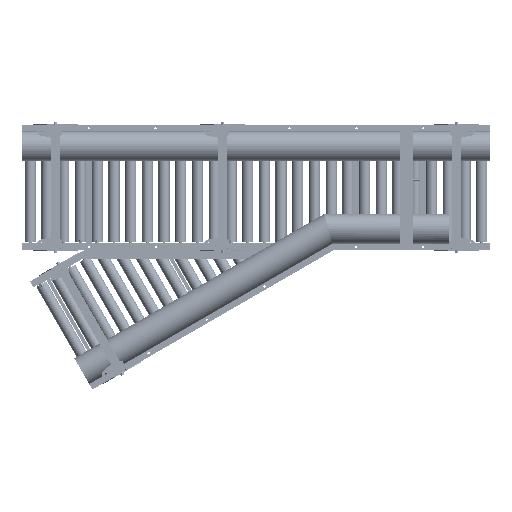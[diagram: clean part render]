
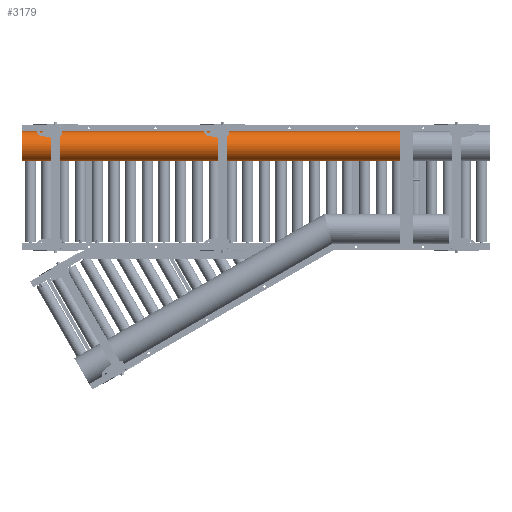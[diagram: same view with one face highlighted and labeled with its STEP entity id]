
A CAD part, front view. The second image highlights one B-rep face of the part: STEP entity #3179.
In plain terms, the highlighted cylindrical face has radius 66.89 mm (diameter 133.78 mm), a partial arc.
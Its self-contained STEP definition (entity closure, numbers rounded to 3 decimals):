
#3179=ADVANCED_FACE('',(#13620),#13619,.T.);
#13619=CYLINDRICAL_SURFACE('',#53804,66.89);
#13620=FACE_OUTER_BOUND('',#53805,.T.);
#53801=CARTESIAN_POINT('',(-2277.652,-150.,185.11));
#53802=DIRECTION('',(-1.,0.,0.));
#53803=DIRECTION('',(0.,0.,1.));
#53804=AXIS2_PLACEMENT_3D('',#53801,#53802,#53803);
#53805=EDGE_LOOP('',(#77116,#77117,#77118,#77119));
#77116=ORIENTED_EDGE('',*,*,#97760,.T.);
#77117=ORIENTED_EDGE('',*,*,#97761,.T.);
#77118=ORIENTED_EDGE('',*,*,#95455,.F.);
#77119=ORIENTED_EDGE('',*,*,#96567,.F.);
#95455=EDGE_CURVE('',#107242,#107243,#107244,.T.);
#96567=EDGE_CURVE('',#114733,#107242,#114740,.T.);
#97760=EDGE_CURVE('',#114733,#122634,#122635,.T.);
#97761=EDGE_CURVE('',#122634,#107243,#122641,.T.);
#107242=VERTEX_POINT('',#183072);
#107243=VERTEX_POINT('',#183073);
#107244=LINE('',#183074,#183075);
#114733=VERTEX_POINT('',#187461);
#114740=CIRCLE('',#187468,66.89);
#122634=VERTEX_POINT('',#191955);
#122635=LINE('',#191956,#191957);
#122641=CIRCLE('',#191962,66.89);
#183072=CARTESIAN_POINT('',(-2100.,-150.,252.));
#183073=CARTESIAN_POINT('',(-402.5,-150.,252.));
#183074=CARTESIAN_POINT('',(-2100.,-150.,252.));
#183075=VECTOR('',#183076,1697.5);
#183076=DIRECTION('',(1.,0.,0.));
#187461=CARTESIAN_POINT('',(-2100.,-150.,118.22));
#187465=CARTESIAN_POINT('',(-2100.,-150.,185.11));
#187466=DIRECTION('',(-1.,0.,0.));
#187467=DIRECTION('',(0.,0.,1.));
#187468=AXIS2_PLACEMENT_3D('',#187465,#187466,#187467);
#191955=CARTESIAN_POINT('',(-402.5,-150.,118.22));
#191956=CARTESIAN_POINT('',(-2100.,-150.,118.22));
#191957=VECTOR('',#191958,1697.5);
#191958=DIRECTION('',(1.,0.,0.));
#191959=CARTESIAN_POINT('',(-402.5,-150.,185.11));
#191960=DIRECTION('',(-1.,0.,0.));
#191961=DIRECTION('',(0.,0.,1.));
#191962=AXIS2_PLACEMENT_3D('',#191959,#191960,#191961);
